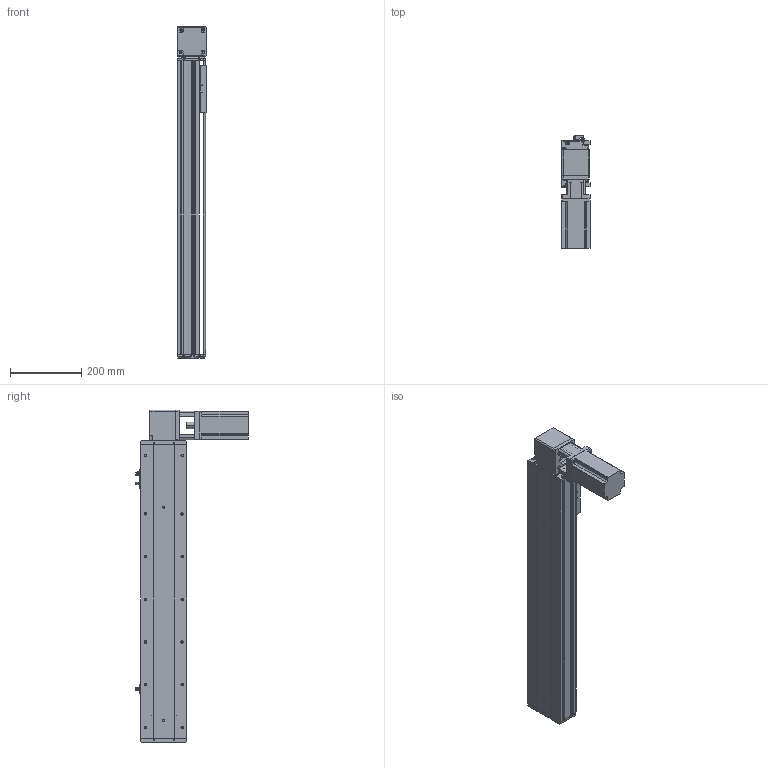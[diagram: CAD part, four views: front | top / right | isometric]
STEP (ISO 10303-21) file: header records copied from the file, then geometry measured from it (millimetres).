
FILE_DESCRIPTION (( 'STEP AP214' ), '1' );
FILE_NAME ('KSD130B-S600-MLT-CM.STEP', '2019-09-23T02:14:38', ( '微软用户' ), ( '微软中国' ), 'SwSTEP 2.0', 'SolidWorks 2014', '' );
FILE_SCHEMA (( 'AUTOMOTIVE_DESIGN' ));
Length unit declared in the file: millimetre
Products named in the file (12): 台达ECMA－C20807AS伺服电机; 130宽马达安装板1-带电机座750W（1）; 覜茼え100遵圉猾敕; U倰嫖萇EEㄜSX672; 130宽安装板同步带带电机座750W; 130宽盖板半封闭同步带-600行程; 130宽马达安装板同步带左-改; 130宽马达安装板同步带半封闭; 130宽同步带安装座半封闭; 130宽端盖同步带半封闭; 130宽底板半封闭同步带-600行程; KSD130B-S600-MLT-CM
Assembly tree (13 placements, depth 2):
  KSD130B-S600-MLT-CM
    130宽底板半封闭同步带-600行程
    130宽端盖同步带半封闭
    130宽同步带安装座半封闭
    130宽马达安装板同步带半封闭
    130宽马达安装板同步带左-改
    130宽盖板半封闭同步带-600行程
    130宽安装板同步带带电机座750W
    U倰嫖萇EEㄜSX672  x3
    覜茼え100遵圉猾敕
    130宽马达安装板1-带电机座750W（1）
    台达ECMA－C20807AS伺服电机
Bounding box: 81 x 316 x 933 mm (x, y, z)
Volume: 3885239.3 mm3; surface area: 981426.3 mm2
Topology: 14 solids, 14 shells, 1417 faces, 3992 edges, 2561 vertices
Faces by surface type: cylinder 671, plane 593, cone 153
Entity records: 45507 total; most frequent: CARTESIAN_POINT 8203, DIRECTION 6974, ORIENTED_EDGE 6676, EDGE_CURVE 3338, AXIS2_PLACEMENT_3D 2544, VERTEX_POINT 2185, LINE 1886, VECTOR 1886
